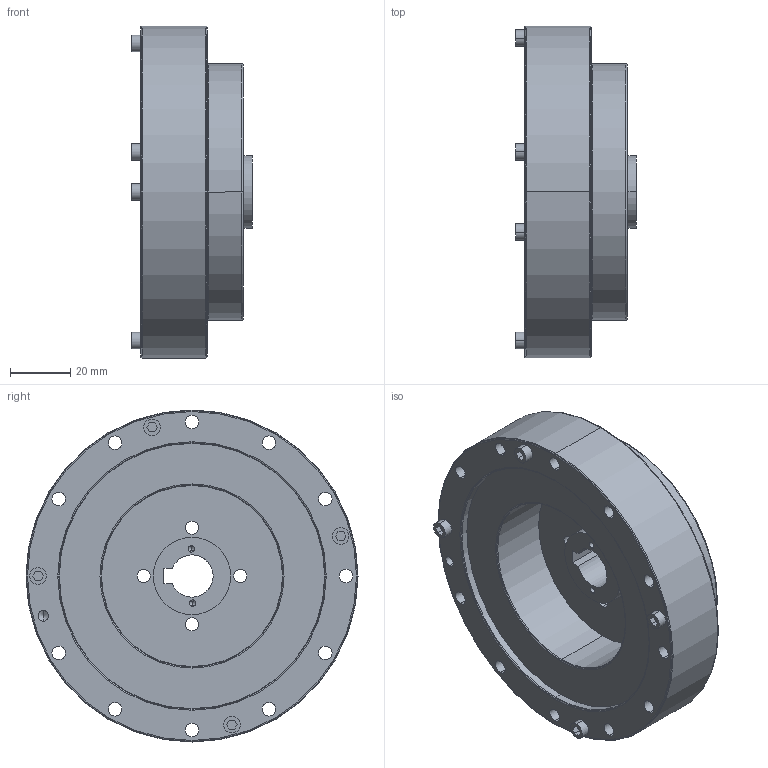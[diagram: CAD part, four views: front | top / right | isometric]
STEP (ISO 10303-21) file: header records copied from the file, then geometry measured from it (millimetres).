
FILE_DESCRIPTION((''),'2;1');
FILE_NAME('LHT-25-U-I_ASM','2018-07-27T',('Administrator'),(''),'PRO/ENGINEER BY PARAMETRIC TECHNOLOGY CORPORATION, 2014200','PRO/ENGINEER BY PARAMETRIC TECHNOLOGY CORPORATION, 2014200','');
FILE_SCHEMA(('AUTOMOTIVE_DESIGN { 1 0 10303 214 1 1 1 1 }'));
Length unit declared in the file: millimetre
Products named in the file (13): MANIFOLD_SOLID_BREP_180; MANIFOLD_SOLID_BREP_181; MANIFOLD_SOLID_BREP_182; MANIFOLD_SOLID_BREP_183; MANIFOLD_SOLID_BREP_184; MANIFOLD_SOLID_BREP_185; MANIFOLD_SOLID_BREP_186; MANIFOLD_SOLID_BREP_187; MANIFOLD_SOLID_BREP_188; MANIFOLD_SOLID_BREP_189; MANIFOLD_SOLID_BREP_190; ADMI7ED1CHGT_ASM; LHT-25-U-I_ASM
Assembly tree (12 placements, depth 3):
  LHT-25-U-I_ASM
    ADMI7ED1CHGT_ASM
      MANIFOLD_SOLID_BREP_180
      MANIFOLD_SOLID_BREP_181
      MANIFOLD_SOLID_BREP_182
      MANIFOLD_SOLID_BREP_183
      MANIFOLD_SOLID_BREP_184
      MANIFOLD_SOLID_BREP_185
      MANIFOLD_SOLID_BREP_186
      MANIFOLD_SOLID_BREP_187
      MANIFOLD_SOLID_BREP_188
      MANIFOLD_SOLID_BREP_189
      MANIFOLD_SOLID_BREP_190
Bounding box: 40 x 110 x 110 mm (x, y, z)
Volume: 195322.9 mm3; surface area: 45984 mm2
Topology: 11 solids, 11 shells, 402 faces, 974 edges, 594 vertices
Faces by surface type: cylinder 179, plane 111, cone 92, torus 20
Entity records: 15188 total; most frequent: DIRECTION 2260, CARTESIAN_POINT 1990, ORIENTED_EDGE 1844, PRESENTATION_STYLE_ASSIGNMENT 933, STYLED_ITEM 933, CURVE_STYLE 922, EDGE_CURVE 922, AXIS2_PLACEMENT_3D 900
